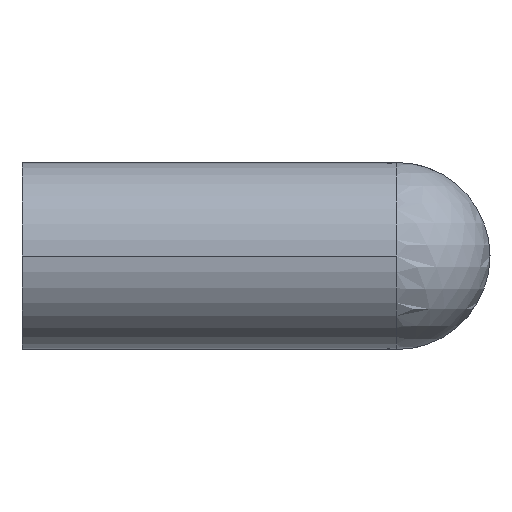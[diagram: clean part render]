
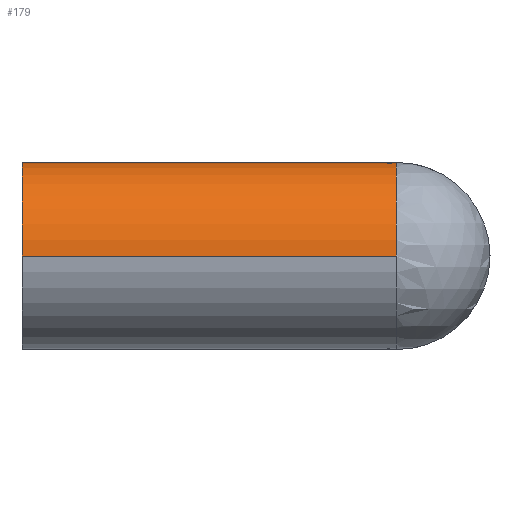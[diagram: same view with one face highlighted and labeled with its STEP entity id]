
A CAD part, left-side view. The second image highlights one B-rep face of the part: STEP entity #179.
In plain terms, the highlighted cylindrical face has radius 6 mm (diameter 12 mm), a partial arc.
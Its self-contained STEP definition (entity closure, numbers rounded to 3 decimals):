
#95 = EDGE_CURVE( '', #161, #221, #249, .T. );
#101 = EDGE_CURVE( '', #229, #109, #256, .T. );
#109 = VERTEX_POINT( '', #266 );
#161 = VERTEX_POINT( '', #327 );
#179 = ADVANCED_FACE( '', ( #345 ), #346, .T. );
#181 = VERTEX_POINT( '', #348 );
#189 = EDGE_CURVE( '', #161, #229, #356, .T. );
#213 = EDGE_CURVE( '', #221, #181, #384, .T. );
#221 = VERTEX_POINT( '', #393 );
#225 = EDGE_CURVE( '', #109, #181, #397, .T. );
#229 = VERTEX_POINT( '', #401 );
#249 = CIRCLE( '', #413, 6. );
#256 = CIRCLE( '', #423, 6. );
#266 = CARTESIAN_POINT( '', ( 6., 0., 0. ) );
#327 = CARTESIAN_POINT( '', ( -6., -24., 0. ) );
#345 = FACE_OUTER_BOUND( '', #534, .T. );
#346 = CYLINDRICAL_SURFACE( '', #535, 6. );
#348 = CARTESIAN_POINT( '', ( 6., -18., 0. ) );
#356 = LINE( '', #547, #548 );
#384 = ELLIPSE( '', #581, 8.485, 6. );
#393 = CARTESIAN_POINT( '', ( 0., -24., 6. ) );
#397 = LINE( '', #598, #599 );
#401 = CARTESIAN_POINT( '', ( -6., 0., 0. ) );
#413 = AXIS2_PLACEMENT_3D( '', #609, #610, #611 );
#423 = AXIS2_PLACEMENT_3D( '', #621, #622, #623 );
#534 = EDGE_LOOP( '', ( #730, #731, #732, #733, #734 ) );
#535 = AXIS2_PLACEMENT_3D( '', #735, #736, #737 );
#547 = CARTESIAN_POINT( '', ( -6., 0., 0. ) );
#548 = VECTOR( '', #741, 1. );
#581 = AXIS2_PLACEMENT_3D( '', #786, #787, #788 );
#598 = CARTESIAN_POINT( '', ( 6., 0., 0. ) );
#599 = VECTOR( '', #807, 1. );
#609 = CARTESIAN_POINT( '', ( 0., -24., 0. ) );
#610 = DIRECTION( '', ( 0., 1., 0. ) );
#611 = DIRECTION( '', ( 1., 0., 0. ) );
#621 = CARTESIAN_POINT( '', ( 0., 0., 0. ) );
#622 = DIRECTION( '', ( 0., 1., 0. ) );
#623 = DIRECTION( '', ( 1., 0., 0. ) );
#730 = ORIENTED_EDGE( '', *, *, #225, .F. );
#731 = ORIENTED_EDGE( '', *, *, #101, .F. );
#732 = ORIENTED_EDGE( '', *, *, #189, .F. );
#733 = ORIENTED_EDGE( '', *, *, #95, .T. );
#734 = ORIENTED_EDGE( '', *, *, #213, .T. );
#735 = CARTESIAN_POINT( '', ( 0., 0., 0. ) );
#736 = DIRECTION( '', ( 0., 1., 0. ) );
#737 = DIRECTION( '', ( 1., 0., 0. ) );
#741 = DIRECTION( '', ( 0., 1., 0. ) );
#786 = CARTESIAN_POINT( '', ( 0., -24., 0. ) );
#787 = DIRECTION( '', ( -0.707, 0.707, 0. ) );
#788 = DIRECTION( '', ( 0.707, 0.707, 0. ) );
#807 = DIRECTION( '', ( 0., -1., 0. ) );
